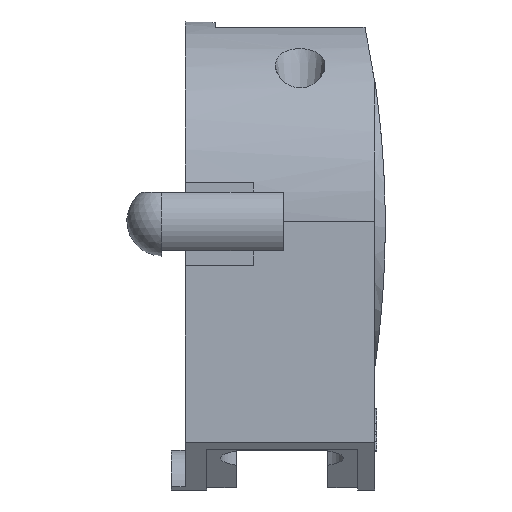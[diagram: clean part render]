
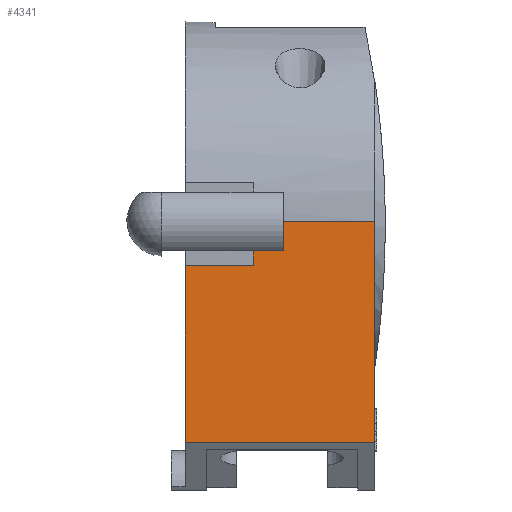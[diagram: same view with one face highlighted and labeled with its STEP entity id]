
A CAD part, left-side view. The second image highlights one B-rep face of the part: STEP entity #4341.
In plain terms, the highlighted planar face has unit normal (-1, 0, 0.013).
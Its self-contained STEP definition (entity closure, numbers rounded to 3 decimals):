
#186=CARTESIAN_POINT(' ',(-9.499,0.,0.124));
#187=VERTEX_POINT(' ',#186);
#201=CARTESIAN_POINT(' ',(-9.635,0.,-10.267));
#206=DIRECTION(' ',(0.013,0.,1.));
#211=VECTOR(' ',#206,1.);
#216=LINE(' ',#201,#211);
#221=CARTESIAN_POINT(' ',(-9.635,0.,-10.267));
#222=VERTEX_POINT(' ',#221);
#226=EDGE_CURVE(' ',#222,#187,#216,.T.);
#3576=CARTESIAN_POINT(' ',(-9.499,4.3,0.124));
#3577=VERTEX_POINT(' ',#3576);
#3591=CARTESIAN_POINT(' ',(-9.499,4.3,0.124));
#3596=DIRECTION(' ',(0.,-1.,0.));
#3601=VECTOR(' ',#3596,1.);
#3606=LINE(' ',#3591,#3601);
#3611=EDGE_CURVE(' ',#3577,#187,#3606,.T.);
#4091=CARTESIAN_POINT(' ',(-9.499,0.,0.124));
#4096=DIRECTION(' ',(-1.,0.,0.013));
#4101=DIRECTION(' ',(0.,1.,0.));
#4106=AXIS2_PLACEMENT_3D(' ',#4091,#4096,#4101);
#4111=PLANE(' ',#4106);
#4116=CARTESIAN_POINT(' ',(-9.526,8.9,-1.955));
#4121=DIRECTION(' ',(0.,-1.,0.));
#4126=VECTOR(' ',#4121,1.);
#4131=LINE(' ',#4116,#4126);
#4136=CARTESIAN_POINT(' ',(-9.526,8.9,-1.955));
#4137=VERTEX_POINT(' ',#4136);
#4141=CARTESIAN_POINT(' ',(-9.526,5.7,-1.955));
#4142=VERTEX_POINT(' ',#4141);
#4146=EDGE_CURVE(' ',#4137,#4142,#4131,.T.);
#4151=ORIENTED_EDGE(' ',*,*,#4146,.F.);
#4156=CARTESIAN_POINT(' ',(-9.635,8.9,-10.267));
#4161=DIRECTION(' ',(0.013,0.,1.));
#4166=VECTOR(' ',#4161,1.);
#4171=LINE(' ',#4156,#4166);
#4176=CARTESIAN_POINT(' ',(-9.635,8.9,-10.267));
#4177=VERTEX_POINT(' ',#4176);
#4181=EDGE_CURVE(' ',#4177,#4137,#4171,.T.);
#4186=ORIENTED_EDGE(' ',*,*,#4181,.F.);
#4191=CARTESIAN_POINT(' ',(-9.635,8.9,-10.267));
#4196=DIRECTION(' ',(0.,-1.,0.));
#4201=VECTOR(' ',#4196,1.);
#4206=LINE(' ',#4191,#4201);
#4211=EDGE_CURVE(' ',#4177,#222,#4206,.T.);
#4216=ORIENTED_EDGE(' ',*,*,#4211,.T.);
#4221=ORIENTED_EDGE(' ',*,*,#226,.T.);
#4226=ORIENTED_EDGE(' ',*,*,#3611,.F.);
#4231=CARTESIAN_POINT(' ',(-9.517,4.3,-1.25));
#4236=DIRECTION(' ',(0.013,0.,1.));
#4241=VECTOR(' ',#4236,1.);
#4246=LINE(' ',#4231,#4241);
#4251=CARTESIAN_POINT(' ',(-9.517,4.3,-1.25));
#4252=VERTEX_POINT(' ',#4251);
#4256=EDGE_CURVE(' ',#4252,#3577,#4246,.T.);
#4261=ORIENTED_EDGE(' ',*,*,#4256,.F.);
#4266=CARTESIAN_POINT(' ',(-9.517,4.3,-1.25));
#4271=DIRECTION(' ',(0.,1.,0.));
#4276=VECTOR(' ',#4271,1.);
#4281=LINE(' ',#4266,#4276);
#4286=CARTESIAN_POINT(' ',(-9.517,5.7,-1.25));
#4287=VERTEX_POINT(' ',#4286);
#4291=EDGE_CURVE(' ',#4252,#4287,#4281,.T.);
#4296=ORIENTED_EDGE(' ',*,*,#4291,.T.);
#4301=CARTESIAN_POINT(' ',(-9.526,5.7,-1.955));
#4306=DIRECTION(' ',(0.013,0.,1.));
#4311=VECTOR(' ',#4306,1.);
#4316=LINE(' ',#4301,#4311);
#4321=EDGE_CURVE(' ',#4142,#4287,#4316,.T.);
#4326=ORIENTED_EDGE(' ',*,*,#4321,.F.);
#4331=EDGE_LOOP(' ',(#4151,#4186,#4216,#4221,#4226,#4261,#4296,#4326));
#4336=FACE_OUTER_BOUND(' ',#4331,.T.);
#4341=ADVANCED_FACE(' ',(#4336),#4111,.T.);
